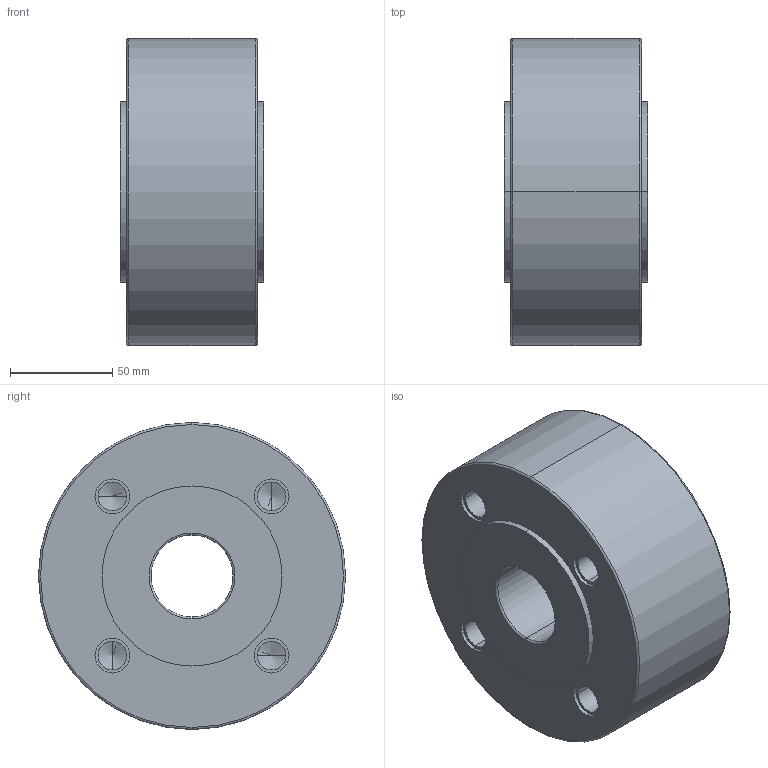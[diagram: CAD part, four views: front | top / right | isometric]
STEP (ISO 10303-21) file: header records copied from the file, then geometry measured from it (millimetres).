
FILE_DESCRIPTION (( 'STEP AP203' ), '1' );
FILE_NAME ('W8_PN10_DN040.STEP', '2012-10-31T06:55:59', ( 'luca.saino' ), ( 'Hewlett-Packard Company' ), 'SwSTEP 2.0', 'SolidWorks 2012', '' );
FILE_SCHEMA (( 'CONFIG_CONTROL_DESIGN' ));
Length unit declared in the file: millimetre
Products named in the file (1): W8_PN10_DN040
Bounding box: 70 x 150 x 150 mm (x, y, z)
Volume: 1051150.7 mm3; surface area: 80601.7 mm2
Topology: 1 solids, 1 shells, 76 faces, 168 edges, 96 vertices
Faces by surface type: cylinder 40, cone 16, plane 12, torus 8
Entity records: 2085 total; most frequent: DIRECTION 402, CARTESIAN_POINT 325, ORIENTED_EDGE 304, AXIS2_PLACEMENT_3D 173, EDGE_CURVE 152, EDGE_LOOP 96, VERTEX_POINT 96, CIRCLE 96
